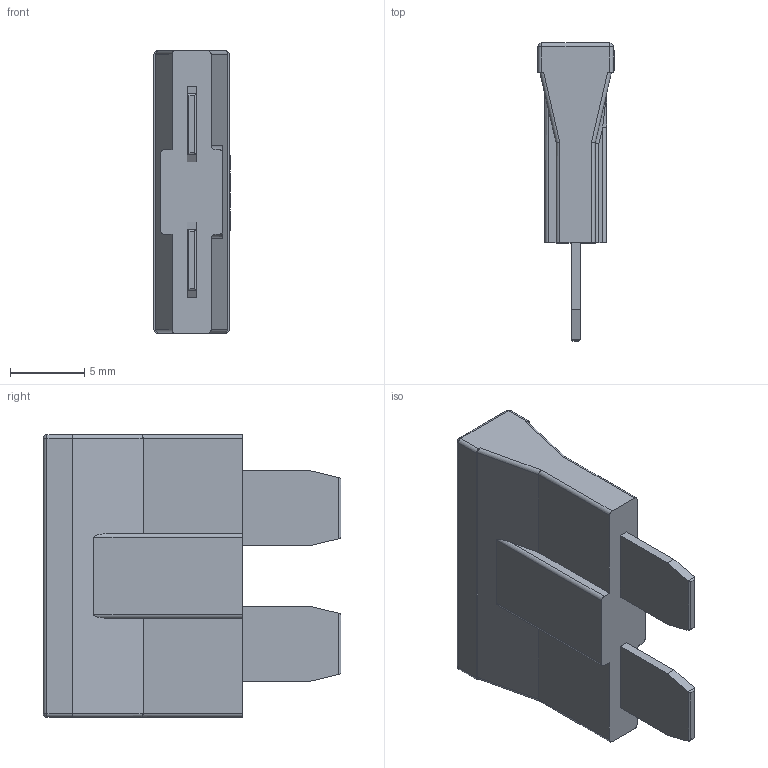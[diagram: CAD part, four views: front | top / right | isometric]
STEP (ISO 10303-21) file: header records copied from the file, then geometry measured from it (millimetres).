
FILE_DESCRIPTION(/* description */ (''),/* implementation_level */ '2;1');
FILE_NAME(/* name */ 'C:\Users\Hani\Desktop\work\ANR58-UL-2A\ANR58-UL Auto Blade Fuse.stp',/* time_stamp */ '2021-03-05T08:28:50-08:00',/* author */ ('Hani'),/* organization */ (''),/* preprocessor_version */ 'ST-DEVELOPER v17',/* originating_system */ 'Autodesk Inventor 2019',/* authorisation */ '');
FILE_SCHEMA (('AUTOMOTIVE_DESIGN { 1 0 10303 214 3 1 1 }'));
Length unit declared in the file: inch
Products named in the file (1): ANR58-UL Auto Blade Fuse
Bounding box: 5.13 x 20.07 x 19.05 mm (x, y, z)
Volume: 979.4 mm3; surface area: 922.1 mm2
Topology: 1 solids, 1 shells, 208 faces, 556 edges, 364 vertices
Faces by surface type: plane 103, bspline 69, cylinder 32, sphere 4
Entity records: 7088 total; most frequent: CARTESIAN_POINT 2275, ORIENTED_EDGE 1112, DIRECTION 760, EDGE_CURVE 556, VERTEX_POINT 364, LINE 360, VECTOR 360, EDGE_LOOP 222
